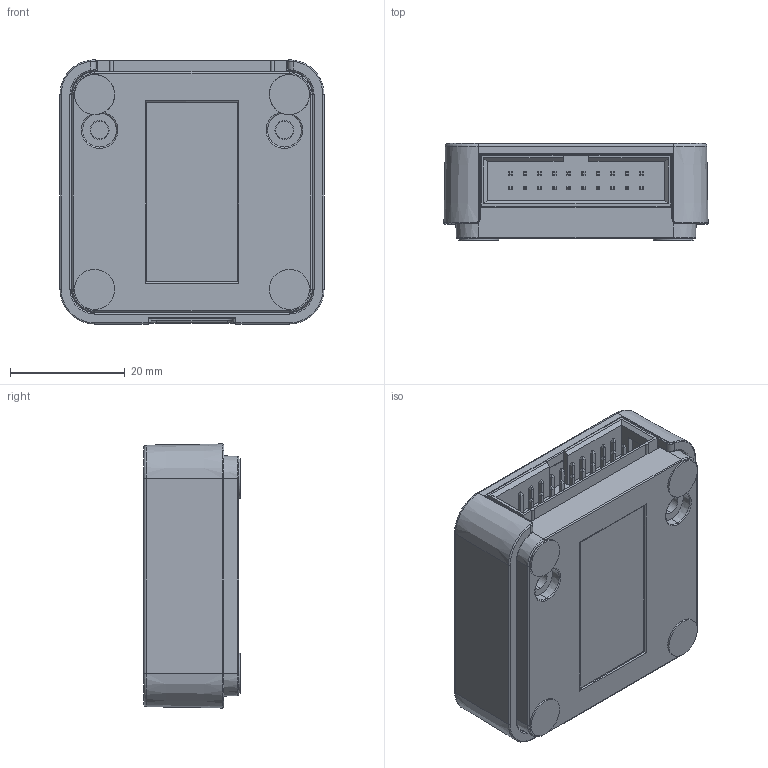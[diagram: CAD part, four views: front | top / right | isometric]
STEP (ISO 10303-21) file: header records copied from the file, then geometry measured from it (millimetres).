
FILE_DESCRIPTION (( 'STEP AP214' ), '1' );
FILE_NAME ('JLinkCompact_Assembly_WEB.STEP', '2026-02-19T09:30:15', ( '' ), ( '' ), 'SwSTEP 2.0', 'SolidWorks 2020', '' );
FILE_SCHEMA (( 'AUTOMOTIVE_DESIGN' ));
Length unit declared in the file: millimetre
Products named in the file (1): JLinkCompact_Assembly_WEB
Bounding box: 46.09 x 16.88 x 46.09 mm (x, y, z)
Surface area: 18811.2 mm2 (no closed solid volume)
Topology: 0 solids, 256 shells, 4096 faces, 10348 edges, 6588 vertices
Faces by surface type: plane 2892, cylinder 1019, sphere 89, cone 50, torus 30, bspline 16
Entity records: 171668 total; most frequent: CARTESIAN_POINT 29569, ORIENTED_EDGE 20340, DIRECTION 17942, EDGE_CURVE 10346, VERTEX_POINT 6588, LINE 6262, VECTOR 6262, AXIS2_PLACEMENT_3D 5840
